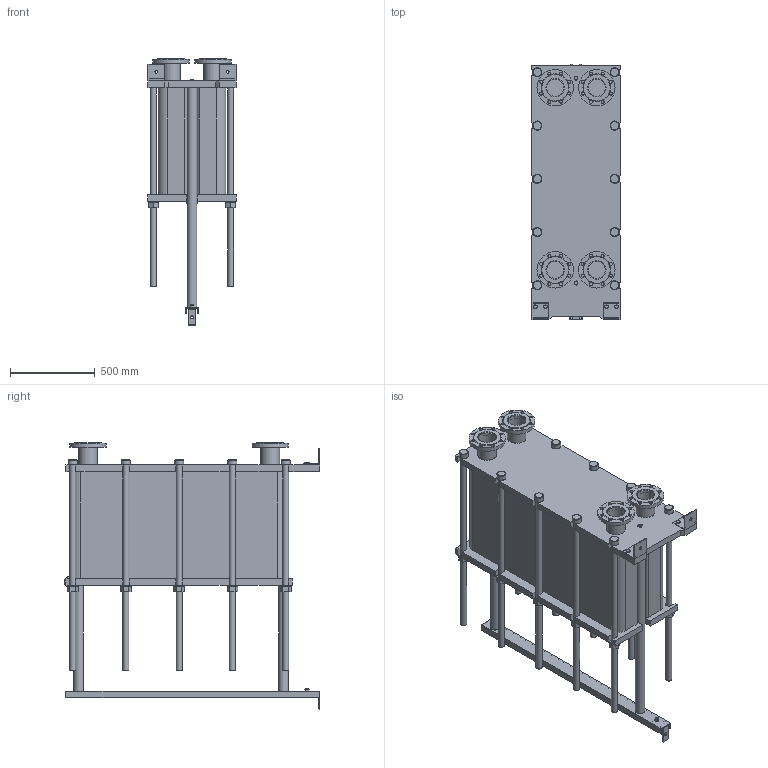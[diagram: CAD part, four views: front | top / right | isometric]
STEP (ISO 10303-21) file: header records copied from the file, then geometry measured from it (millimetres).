
FILE_DESCRIPTION(/* description */ (''),/* implementation_level */ '2;1');
FILE_NAME(/* name */ 'C:\Users\zhuro\Desktop\ENCO\TO\ЭН-04\ЭН-0,5-04-183-1.stp',/* time_stamp */ '2022-06-06T11:00:56+03:00',/* author */ ('zhuro'),/* organization */ (''),/* preprocessor_version */ 'ST-DEVELOPER v18.1',/* originating_system */ 'Autodesk Inventor 2022',/* authorisation */ '');
FILE_SCHEMA (('AUTOMOTIVE_DESIGN { 1 0 10303 214 3 1 1 }'));
Length unit declared in the file: millimetre
Products named in the file (1): ЭН-0,5-04-183-1
Bounding box: 520 x 1510 x 1571.5 mm (x, y, z)
Volume: 391194864.7 mm3; surface area: 10180439.8 mm2
Topology: 45 solids, 45 shells, 668 faces, 1611 edges, 1048 vertices
Faces by surface type: plane 457, cylinder 166, cone 39, torus 6
Full cylindrical faces by diameter (mm): 8 x4, 10 x2, 16 x8, 18 x35, 36 x25, 40 x2, 42 x1, 45 x4, 54 x10, 57 x2, 60 x10, 68 x2, 100 x4, 110 x8, 215 x4
Entity records: 23607 total; most frequent: CARTESIAN_POINT 7348, DIRECTION 3371, ORIENTED_EDGE 3142, EDGE_CURVE 1571, AXIS2_PLACEMENT_3D 1199, VERTEX_POINT 1044, LINE 973, VECTOR 973
